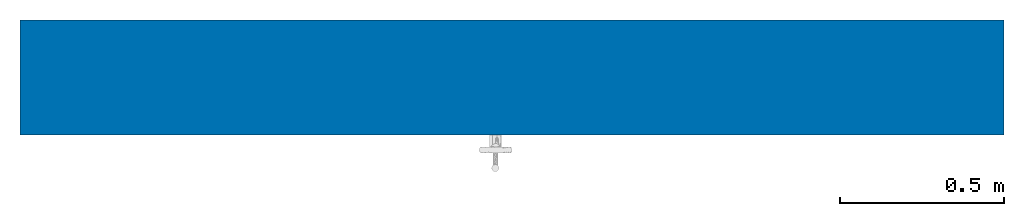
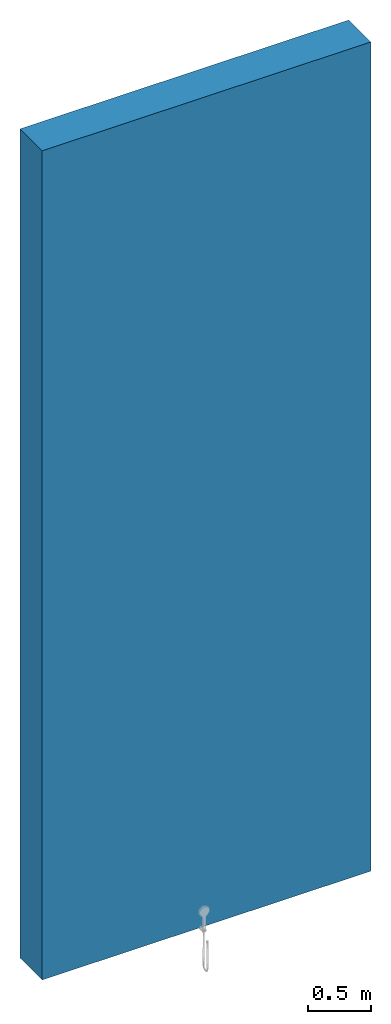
# One storey, incomplete: 1 wall.
"""IFC2X3 building model written with IfcOpenShell, lengths in millimetres."""

from ifc_helpers import new_model, entity, si_unit, converted_unit, derived_unit, direction, frame, frame_2d, origin, place, context, subcontext, project, spatial, rectangle, extrude, type_object, element, save


model = new_model("IFC2X3")

# Units and contexts
model_context = context("Model", 3, precision=0.01, world=origin(), true_north=direction((6.12303176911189e-17, 1.0)))
body_context = subcontext(model_context, "Body", "Model", "MODEL_VIEW")
ifc_project = project(units=[si_unit("LENGTHUNIT", "METRE", prefix="MILLI"), si_unit("AREAUNIT", "SQUARE_METRE"), si_unit("VOLUMEUNIT", "CUBIC_METRE"), converted_unit("PLANEANGLEUNIT", "DEGREE", entity("IfcRatioMeasure", 0.0174532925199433), si_unit("PLANEANGLEUNIT", "RADIAN"), dimensions=[0, 0, 0, 0, 0, 0, 0]), si_unit("MASSUNIT", "GRAM", prefix="KILO"), derived_unit("MASSDENSITYUNIT", [(si_unit("MASSUNIT", "GRAM", prefix="KILO"), 1), (si_unit("LENGTHUNIT", "METRE"), -3)]), derived_unit("MOMENTOFINERTIAUNIT", [(si_unit("LENGTHUNIT", "METRE"), 4)]), si_unit("TIMEUNIT", "SECOND"), si_unit("FREQUENCYUNIT", "HERTZ"), si_unit("THERMODYNAMICTEMPERATUREUNIT", "DEGREE_CELSIUS"), derived_unit("THERMALTRANSMITTANCEUNIT", [(si_unit("MASSUNIT", "GRAM", prefix="KILO"), 1), (si_unit("THERMODYNAMICTEMPERATUREUNIT", "KELVIN"), -1), (si_unit("TIMEUNIT", "SECOND"), -3)]), derived_unit("VOLUMETRICFLOWRATEUNIT", [(si_unit("LENGTHUNIT", "METRE"), 3), (si_unit("TIMEUNIT", "SECOND"), -1)]), si_unit("ELECTRICCURRENTUNIT", "AMPERE"), si_unit("ELECTRICVOLTAGEUNIT", "VOLT"), si_unit("POWERUNIT", "WATT"), si_unit("FORCEUNIT", "NEWTON", prefix="KILO"), si_unit("ILLUMINANCEUNIT", "LUX"), si_unit("LUMINOUSFLUXUNIT", "LUMEN"), si_unit("LUMINOUSINTENSITYUNIT", "CANDELA"), derived_unit("USERDEFINED", [(si_unit("MASSUNIT", "GRAM", prefix="KILO"), -1), (si_unit("LENGTHUNIT", "METRE"), -2), (si_unit("TIMEUNIT", "SECOND"), 3), (si_unit("LUMINOUSFLUXUNIT", "LUMEN"), 1)]), derived_unit("LINEARVELOCITYUNIT", [(si_unit("LENGTHUNIT", "METRE"), 1), (si_unit("TIMEUNIT", "SECOND"), -1)]), si_unit("PRESSUREUNIT", "PASCAL"), derived_unit("USERDEFINED", [(si_unit("LENGTHUNIT", "METRE"), -2), (si_unit("MASSUNIT", "GRAM", prefix="KILO"), 1), (si_unit("TIMEUNIT", "SECOND"), -2)]), derived_unit("LINEARFORCEUNIT", [(si_unit("MASSUNIT", "GRAM", prefix="KILO"), 1), (si_unit("LENGTHUNIT", "METRE"), 1), (si_unit("TIMEUNIT", "SECOND"), -2), (si_unit("LENGTHUNIT", "METRE"), -1)]), derived_unit("PLANARFORCEUNIT", [(si_unit("MASSUNIT", "GRAM", prefix="KILO"), 1), (si_unit("LENGTHUNIT", "METRE"), 1), (si_unit("TIMEUNIT", "SECOND"), -2), (si_unit("LENGTHUNIT", "METRE"), -2)])], contexts=[model_context])

# Site, building, storey
site_placement = place(None, origin())
site = spatial("IfcSite", under=ifc_project, at=site_placement, Name="Default", CompositionType="ELEMENT")
building_placement = place(site_placement, origin())
building = spatial("IfcBuilding", under=site, at=building_placement, CompositionType="ELEMENT")
storey_placement = place(building_placement, origin())
storey = spatial("IfcBuildingStorey", under=building, at=storey_placement, Name="Level 1", CompositionType="ELEMENT", Elevation=0.0)

# Wall
wall_type = type_object("IfcWallType", Name="Basic Wall:Exterior - Brick on Mtl. Stud", PredefinedType="STANDARD")
wall_placement = place(storey_placement, frame((-4846.82973761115, 115.314766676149, 0.0)))
element("IfcWallStandardCase", 1, at=wall_placement, inside=storey, type_object=wall_type, Name="Basic Wall:Exterior - Brick on Mtl. Stud", ObjectType="Basic Wall:Exterior - Brick on Mtl. Stud", context=body_context, shape_type="SweptSolid", body=[
    extrude(rectangle(XDim=3000.0, YDim=350.0, at=frame_2d((1500.0, 2.8421709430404e-14), x_axis=(-1.0, 0.0))), origin(), (0.0, 0.0, 1.0), 8000.0),
])

save(model, "model.ifc")
